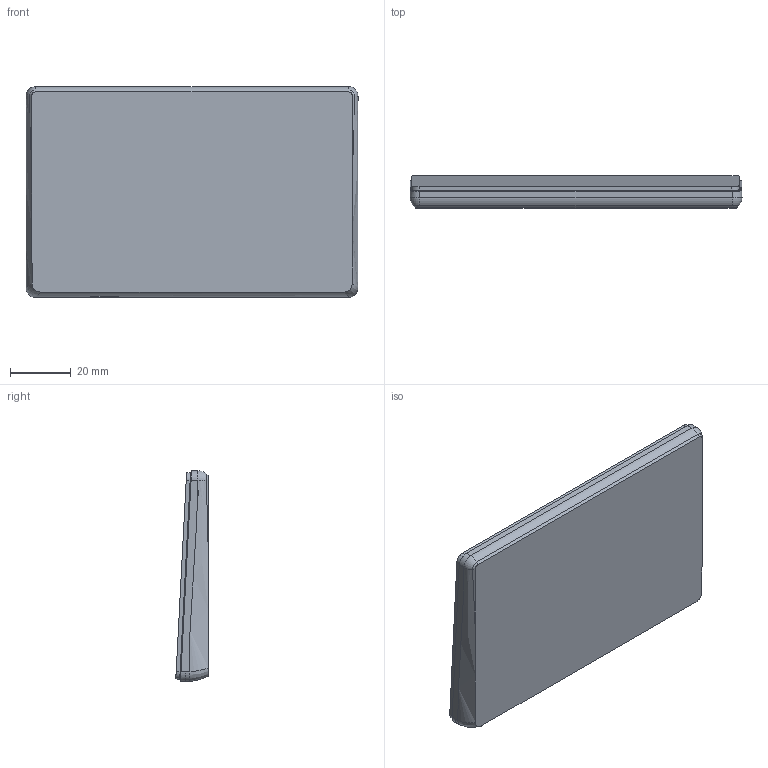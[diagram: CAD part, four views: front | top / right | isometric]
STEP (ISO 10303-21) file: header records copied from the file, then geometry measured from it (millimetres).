
FILE_DESCRIPTION (( 'STEP AP214' ), '1' );
FILE_NAME ('pxm0057_501.STEP', '2022-05-17T13:03:55', ( '' ), ( '' ), 'SwSTEP 2.0', 'SolidWorks 2021', '' );
FILE_SCHEMA (( 'AUTOMOTIVE_DESIGN' ));
Length unit declared in the file: millimetre
Products named in the file (4): pxm0057_501; PXM0057_PTP_Type-C_Housing; PXM0057_PTP_Pivot_Clip; pxm0057_401
Assembly tree (4 placements, depth 2):
  pxm0057_501
    PXM0057_PTP_Pivot_Clip  x2
    PXM0057_PTP_Type-C_Housing
    pxm0057_401
Bounding box: 109.7 x 10.73 x 69.7 mm (x, y, z)
Volume: 47882.1 mm3; surface area: 39611.6 mm2
Topology: 88 solids, 88 shells, 1322 faces, 3278 edges, 2149 vertices
Faces by surface type: plane 935, cylinder 303, bspline 31, torus 29, sphere 18, cone 6
Entity records: 55590 total; most frequent: CARTESIAN_POINT 16325, ORIENTED_EDGE 6436, DIRECTION 3307, EDGE_CURVE 3218, B_SPLINE_CURVE_WITH_KNOTS 2589, VERTEX_POINT 2109, AXIS2_PLACEMENT_3D 1451, EDGE_LOOP 1337
